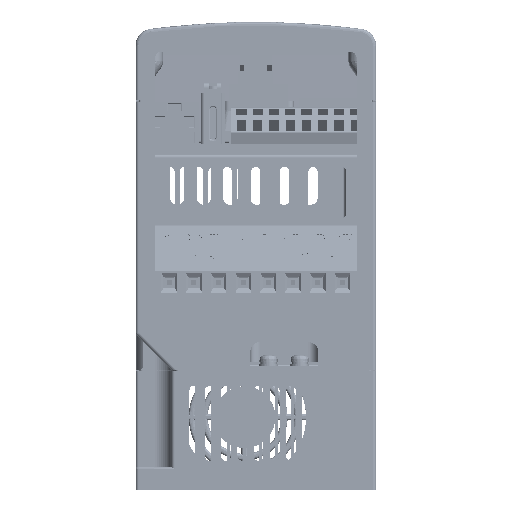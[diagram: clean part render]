
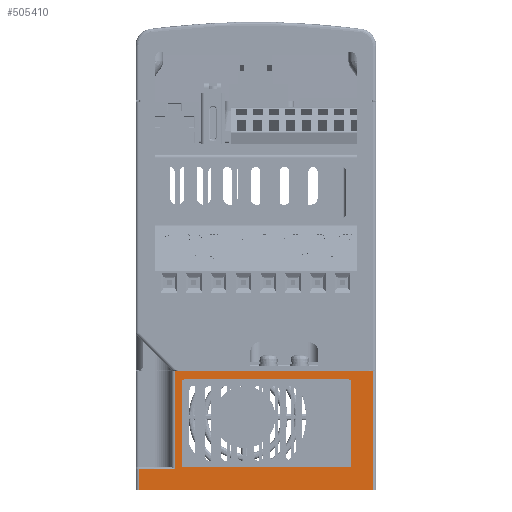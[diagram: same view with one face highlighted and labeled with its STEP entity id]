
A CAD part, left-side view. The second image highlights one B-rep face of the part: STEP entity #505410.
In plain terms, the highlighted planar face has unit normal (-1, 0, 0).
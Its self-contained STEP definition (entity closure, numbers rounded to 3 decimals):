
#481214=CARTESIAN_POINT('',(-121.777,-26.149,66.154));
#481215=VERTEX_POINT('',#481214);
#481224=CARTESIAN_POINT('',(-121.777,-25.795,66.3));
#481225=VERTEX_POINT('',#481224);
#481226=CARTESIAN_POINT('',(-121.777,-25.795,65.8));
#481227=DIRECTION('',(-1.0,0.0,0.0));
#481228=DIRECTION('',(0.0,0.707,-0.707));
#481229=AXIS2_PLACEMENT_3D('',#481226,#481227,#481228);
#481230=CIRCLE('',#481229,0.5);
#481231=EDGE_CURVE('',#481225,#481215,#481230,.F.);
#481256=CARTESIAN_POINT('',(-121.777,0.558,66.154));
#481257=VERTEX_POINT('',#481256);
#481266=CARTESIAN_POINT('',(-121.777,0.705,65.8));
#481267=VERTEX_POINT('',#481266);
#481268=CARTESIAN_POINT('',(-121.777,0.205,65.8));
#481269=DIRECTION('',(-1.0,0.0,0.0));
#481270=DIRECTION('',(0.0,-0.707,-0.707));
#481271=AXIS2_PLACEMENT_3D('',#481268,#481269,#481270);
#481272=CIRCLE('',#481271,0.5);
#481273=EDGE_CURVE('',#481267,#481257,#481272,.F.);
#481646=CARTESIAN_POINT('',(-121.777,-26.795,1.0));
#481647=VERTEX_POINT('',#481646);
#481655=CARTESIAN_POINT('',(-121.777,-26.795,12.));
#481656=VERTEX_POINT('',#481655);
#481657=CARTESIAN_POINT('',(-121.777,-26.795,1.0));
#481658=DIRECTION('',(0.0,0.0,1.0));
#481659=VECTOR('',#481658,11.);
#481660=LINE('',#481657,#481659);
#481661=EDGE_CURVE('',#481647,#481656,#481660,.T.);
#481698=CARTESIAN_POINT('',(-121.777,3.205,12.));
#481699=VERTEX_POINT('',#481698);
#481700=CARTESIAN_POINT('',(-121.777,-26.795,12.));
#481701=DIRECTION('',(0.0,1.0,0.0));
#481702=VECTOR('',#481701,30.);
#481703=LINE('',#481700,#481702);
#481704=EDGE_CURVE('',#481656,#481699,#481703,.T.);
#481731=CARTESIAN_POINT('',(-121.777,-33.295,1.0));
#481732=VERTEX_POINT('',#481731);
#481740=CARTESIAN_POINT('',(-121.777,-33.295,1.0));
#481741=DIRECTION('',(0.0,1.0,0.0));
#481742=VECTOR('',#481741,6.5);
#481743=LINE('',#481740,#481742);
#481744=EDGE_CURVE('',#481732,#481647,#481743,.T.);
#481771=CARTESIAN_POINT('',(-121.777,3.205,73.0));
#481772=VERTEX_POINT('',#481771);
#481780=CARTESIAN_POINT('',(-121.777,-33.295,73.0));
#481781=VERTEX_POINT('',#481780);
#481782=CARTESIAN_POINT('',(-121.777,3.205,73.0));
#481783=DIRECTION('',(0.0,-1.0,0.0));
#481784=VECTOR('',#481783,36.5);
#481785=LINE('',#481782,#481784);
#481786=EDGE_CURVE('',#481772,#481781,#481785,.T.);
#496739=CARTESIAN_POINT('',(-121.777,3.205,73.0));
#496740=DIRECTION('',(0.0,0.0,-1.0));
#496741=VECTOR('',#496740,61.0);
#496742=LINE('',#496739,#496741);
#496743=EDGE_CURVE('',#481772,#481699,#496742,.T.);
#500926=CARTESIAN_POINT('',(-121.777,-33.295,1.0));
#500927=DIRECTION('',(0.0,0.0,1.0));
#500928=VECTOR('',#500927,72.0);
#500929=LINE('',#500926,#500928);
#500930=EDGE_CURVE('',#481732,#481781,#500929,.T.);
#505329=CARTESIAN_POINT('',(-121.777,-35.12,-2.6));
#505330=DIRECTION('',(-1.0,0.0,0.0));
#505331=DIRECTION('',(0.0,0.0,1.0));
#505332=AXIS2_PLACEMENT_3D('',#505329,#505330,#505331);
#505333=PLANE('',#505332);
#505334=ORIENTED_EDGE('',*,*,#481786,.F.);
#505335=ORIENTED_EDGE('',*,*,#496743,.T.);
#505336=ORIENTED_EDGE('',*,*,#481704,.F.);
#505337=ORIENTED_EDGE('',*,*,#481661,.F.);
#505338=ORIENTED_EDGE('',*,*,#481744,.F.);
#505339=ORIENTED_EDGE('',*,*,#500930,.T.);
#505340=EDGE_LOOP('',(#505334,#505335,#505336,#505337,#505338,#505339));
#505341=FACE_OUTER_BOUND('',#505340,.T.);
#505342=CARTESIAN_POINT('',(-121.777,-25.795,14.3));
#505343=VERTEX_POINT('',#505342);
#505344=CARTESIAN_POINT('',(-121.777,0.205,14.3));
#505345=VERTEX_POINT('',#505344);
#505346=CARTESIAN_POINT('',(-121.777,-25.795,14.3));
#505347=DIRECTION('',(0.0,1.0,0.0));
#505348=VECTOR('',#505347,26.);
#505349=LINE('',#505346,#505348);
#505350=EDGE_CURVE('',#505343,#505345,#505349,.T.);
#505351=ORIENTED_EDGE('',*,*,#505350,.T.);
#505352=CARTESIAN_POINT('',(-121.777,0.705,14.8));
#505353=VERTEX_POINT('',#505352);
#505354=CARTESIAN_POINT('',(-121.777,0.205,14.8));
#505355=DIRECTION('',(-1.0,0.0,0.0));
#505356=DIRECTION('',(0.0,0.0,1.0));
#505357=AXIS2_PLACEMENT_3D('',#505354,#505355,#505356);
#505358=CIRCLE('',#505357,0.5);
#505359=EDGE_CURVE('',#505345,#505353,#505358,.F.);
#505360=ORIENTED_EDGE('',*,*,#505359,.T.);
#505361=CARTESIAN_POINT('',(-121.777,0.705,14.8));
#505362=DIRECTION('',(0.0,0.0,1.0));
#505363=VECTOR('',#505362,51.);
#505364=LINE('',#505361,#505363);
#505365=EDGE_CURVE('',#505353,#481267,#505364,.T.);
#505366=ORIENTED_EDGE('',*,*,#505365,.T.);
#505367=ORIENTED_EDGE('',*,*,#481273,.T.);
#505368=CARTESIAN_POINT('',(-121.777,0.205,66.3));
#505369=VERTEX_POINT('',#505368);
#505370=CARTESIAN_POINT('',(-121.777,0.205,65.8));
#505371=DIRECTION('',(-1.0,0.0,0.0));
#505372=DIRECTION('',(0.0,-0.707,-0.707));
#505373=AXIS2_PLACEMENT_3D('',#505370,#505371,#505372);
#505374=CIRCLE('',#505373,0.5);
#505375=EDGE_CURVE('',#481257,#505369,#505374,.F.);
#505376=ORIENTED_EDGE('',*,*,#505375,.T.);
#505377=CARTESIAN_POINT('',(-121.777,0.205,66.3));
#505378=DIRECTION('',(0.0,-1.0,0.0));
#505379=VECTOR('',#505378,26.);
#505380=LINE('',#505377,#505379);
#505381=EDGE_CURVE('',#505369,#481225,#505380,.T.);
#505382=ORIENTED_EDGE('',*,*,#505381,.T.);
#505383=ORIENTED_EDGE('',*,*,#481231,.T.);
#505384=CARTESIAN_POINT('',(-121.777,-26.295,65.8));
#505385=VERTEX_POINT('',#505384);
#505386=CARTESIAN_POINT('',(-121.777,-25.795,65.8));
#505387=DIRECTION('',(-1.0,0.0,0.0));
#505388=DIRECTION('',(0.0,0.707,-0.707));
#505389=AXIS2_PLACEMENT_3D('',#505386,#505387,#505388);
#505390=CIRCLE('',#505389,0.5);
#505391=EDGE_CURVE('',#481215,#505385,#505390,.F.);
#505392=ORIENTED_EDGE('',*,*,#505391,.T.);
#505393=CARTESIAN_POINT('',(-121.777,-26.295,14.8));
#505394=VERTEX_POINT('',#505393);
#505395=CARTESIAN_POINT('',(-121.777,-26.295,65.8));
#505396=DIRECTION('',(0.0,0.0,-1.0));
#505397=VECTOR('',#505396,51.);
#505398=LINE('',#505395,#505397);
#505399=EDGE_CURVE('',#505385,#505394,#505398,.T.);
#505400=ORIENTED_EDGE('',*,*,#505399,.T.);
#505401=CARTESIAN_POINT('',(-121.777,-25.795,14.8));
#505402=DIRECTION('',(-1.0,0.0,0.0));
#505403=DIRECTION('',(0.0,0.0,1.0));
#505404=AXIS2_PLACEMENT_3D('',#505401,#505402,#505403);
#505405=CIRCLE('',#505404,0.5);
#505406=EDGE_CURVE('',#505394,#505343,#505405,.F.);
#505407=ORIENTED_EDGE('',*,*,#505406,.T.);
#505408=EDGE_LOOP('',(#505351,#505360,#505366,#505367,#505376,#505382,#505383,#505392,#505400,#505407));
#505409=FACE_BOUND('',#505408,.T.);
#505410=ADVANCED_FACE('',(#505341,#505409),#505333,.T.);
